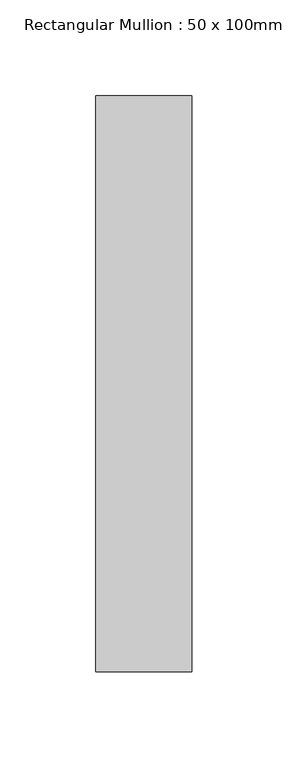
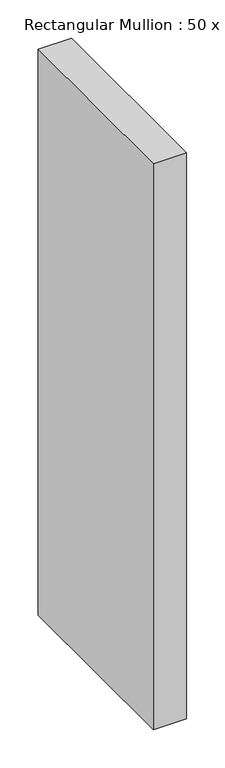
"""IFC4 building model written with IfcOpenShell, lengths in millimetres: member geometry, Rectangular Mullion : 50 x 100mm."""

import ifcopenshell
import ifcopenshell.guid

model = None  # the IFC model being written
_history = None  # IfcOwnerHistory: only IFC2X3 demands one
_inside = {}  # id of a spatial element -> (the spatial element, [elements in it])
_under = {}  # id of a project, library or spatial element -> (it, [spatial elements below it])
_declared = {}  # id of a project -> (the project, [libraries it declares])
_typed = {}  # id of a type object -> (the type object, [elements of that type])
_made_of = {}  # id of a material, layer set ... -> (it, [elements and type objects made of it])


def new_model(schema):
    """Start an empty IFC model of exactly this schema.

    Asked for "IFC4X3", IfcOpenShell would pick the latest addendum, in which some entities
    have other attributes; the version numbers below select the first issue.
    IFC2X3 requires an IfcOwnerHistory on every rooted entity: one is made here for all.
    """
    global model, _history
    if schema == "IFC4X3":
        model = ifcopenshell.file(schema_version=(4, 3, 0, 0))
    else:
        model = ifcopenshell.file(schema=schema)
    _inside.clear()
    _under.clear()
    _declared.clear()
    _typed.clear()
    _made_of.clear()
    _history = None
    if model.schema == "IFC2X3":
        org = make("IfcOrganization", Name="unknown")
        user = make(
            "IfcPersonAndOrganization",
            ThePerson=make("IfcPerson", FamilyName="unknown"),
            TheOrganization=org,
        )
        app = make(
            "IfcApplication",
            ApplicationDeveloper=org,
            Version="unknown",
            ApplicationFullName="unknown",
            ApplicationIdentifier="unknown",
        )
        _history = make(
            "IfcOwnerHistory",
            OwningUser=user,
            OwningApplication=app,
            ChangeAction="ADDED",
            CreationDate=0,
        )
    return model


def make(cls, **values):
    """One entity of the class cls with the attributes given. An attribute that is None is left unset."""
    return model.create_entity(
        cls, **{name: value for name, value in values.items() if value is not None}
    )


def rooted(cls, **values):
    """An entity with a GlobalId (a new one), such as an element, a storey or a relation."""
    return make(cls, GlobalId=ifcopenshell.guid.new(), OwnerHistory=_history, **values)


def si_unit(unit_type, name, prefix=None):
    """IfcSIUnit, for example si_unit("LENGTHUNIT", "METRE", prefix="MILLI")."""
    return make("IfcSIUnit", UnitType=unit_type, Prefix=prefix, Name=name)


def assignment(units):
    """IfcUnitAssignment: the units of a project."""
    return None if units is None else make("IfcUnitAssignment", Units=units)


def point(xyz):
    """IfcCartesianPoint."""
    return None if xyz is None else make("IfcCartesianPoint", Coordinates=xyz)


def direction(xyz):
    """IfcDirection."""
    return None if xyz is None else make("IfcDirection", DirectionRatios=xyz)


def frame(location, z_axis=None, x_axis=None):
    """IfcAxis2Placement3D, a coordinate frame: its origin and axes. An axis left out is left unset."""
    return make(
        "IfcAxis2Placement3D",
        Location=point(location),
        Axis=direction(z_axis),
        RefDirection=direction(x_axis),
    )


def origin():
    """The frame at (0, 0, 0) with its axes left unset."""
    return frame((0.0, 0.0, 0.0))


def place(relative_to, where):
    """IfcLocalPlacement: puts the frame where relative to a parent placement (None: the world)."""
    return make(
        "IfcLocalPlacement", PlacementRelTo=relative_to, RelativePlacement=where
    )


def context(
    kind, dimensions, precision=None, world=None, true_north=None, identifier=None
):
    """IfcGeometricRepresentationContext, for example the 3D "Model" context."""
    return make(
        "IfcGeometricRepresentationContext",
        ContextIdentifier=identifier,
        ContextType=kind,
        CoordinateSpaceDimension=dimensions,
        Precision=precision,
        WorldCoordinateSystem=world,
        TrueNorth=true_north,
    )


def project(units=None, contexts=None):
    """IfcProject with its units and contexts."""
    return rooted(
        "IfcProject",
        Name="project",
        RepresentationContexts=contexts,
        UnitsInContext=assignment(units),
    )


def spatial(cls, under=None, at=None, **own):
    """A site, building, storey or space (cls), placed at a placement, below another one or the project."""
    s = rooted(cls, ObjectPlacement=at, **own)
    if under is not None:
        _under.setdefault(under.id(), (under, []))[1].append(s)
    return s


def polyline(points):
    """IfcPolyline through the points."""
    return make("IfcPolyline", Points=[point(p) for p in points])


def outline(outer, holes=None, kind="AREA"):
    """IfcArbitraryClosedProfileDef: a profile drawn as a closed curve; with holes, ...WithVoids."""
    if holes is None:
        return make("IfcArbitraryClosedProfileDef", ProfileType=kind, OuterCurve=outer)
    return make(
        "IfcArbitraryProfileDefWithVoids",
        ProfileType=kind,
        OuterCurve=outer,
        InnerCurves=holes,
    )


def extrude(swept, where, along, depth):
    """IfcExtrudedAreaSolid: the profile swept, set in the frame where, extruded along a direction by depth."""
    return make(
        "IfcExtrudedAreaSolid",
        SweptArea=swept,
        Position=where,
        ExtrudedDirection=direction(along),
        Depth=depth,
    )


def shape(context_of_items, identifier, shape_type, items):
    """IfcShapeRepresentation: the items that make up one representation, for example the "Body"."""
    return make(
        "IfcShapeRepresentation",
        ContextOfItems=context_of_items,
        RepresentationIdentifier=identifier,
        RepresentationType=shape_type,
        Items=items,
    )


def source(mapping_origin, context_of_items, identifier, shape_type, items):
    """IfcRepresentationMap: a shape defined once, which mapped items show again and again."""
    return make(
        "IfcRepresentationMap",
        MappingOrigin=mapping_origin,
        MappedRepresentation=shape(context_of_items, identifier, shape_type, items),
    )


def transform(
    local_origin,
    x_axis=None,
    y_axis=None,
    z_axis=None,
    scale=None,
    scale2=None,
    scale3=None,
    uniform=True,
):
    """IfcCartesianTransformationOperator3D, or its non-uniform kind. x_axis, y_axis, z_axis: its Axis1, 2, 3."""
    if uniform:
        return make(
            "IfcCartesianTransformationOperator3D",
            Axis1=direction(x_axis),
            Axis2=direction(y_axis),
            LocalOrigin=point(local_origin),
            Scale=scale,
            Axis3=direction(z_axis),
        )
    return make(
        "IfcCartesianTransformationOperator3DnonUniform",
        Axis1=direction(x_axis),
        Axis2=direction(y_axis),
        LocalOrigin=point(local_origin),
        Scale=scale,
        Axis3=direction(z_axis),
        Scale2=scale2,
        Scale3=scale3,
    )


def mapped(mapping_source, mapping_target):
    """IfcMappedItem: shows the shape of a source again, moved by a transform."""
    return make(
        "IfcMappedItem", MappingSource=mapping_source, MappingTarget=mapping_target
    )


def made_of(thing, what):
    """Note that an element or type object is made of a material, layer set ...; save() writes the relation."""
    if what is not None:
        _made_of.setdefault(what.id(), (what, []))[1].append(thing)
    return thing


def element(
    cls,
    number,
    at=None,
    inside=None,
    cuts=None,
    type_object=None,
    material=None,
    context=None,
    identifier="Body",
    shape_type=None,
    held_by="IfcProductDefinitionShape",
    body=None,
    shapes=None,
    **own,
):
    """One element of the class cls, such as IfcWall. Its Tag is "e" and its number.

    at: its placement. inside: the storey or other place that contains it. cuts: it is an
    opening in that element (IfcRelVoidsElement). A single representation is given by context,
    identifier, shape_type and body (its items); several are given by shapes. held_by: the class
    of the entity that holds the representations. save() writes the other relations.
    """
    e = rooted(cls, Tag="e%d" % number, ObjectPlacement=at, **own)
    if body is not None:
        shapes = [shape(context, identifier, shape_type, body)]
    if shapes is not None:
        e.Representation = make(held_by, Representations=shapes)
    if inside is not None:
        _inside.setdefault(inside.id(), (inside, []))[1].append(e)
    if cuts is not None:
        rooted(
            "IfcRelVoidsElement", RelatingBuildingElement=cuts, RelatedOpeningElement=e
        )
    if type_object is not None:
        _typed.setdefault(type_object.id(), (type_object, []))[1].append(e)
    return made_of(e, material)


def aggregate(whole, parts):
    """IfcRelAggregates: a whole, such as a stair, and the parts it consists of."""
    return rooted("IfcRelAggregates", RelatingObject=whole, RelatedObjects=parts)


def save(model, path):
    """Write the relations noted so far, then the file.

    IfcRelAggregates (storeys below a building ...), IfcRelContainedInSpatialStructure (elements
    in a storey), IfcRelDefinesByType, IfcRelAssociatesMaterial and IfcRelDeclares: one each for
    every whole, place, type object, material and project.
    """
    for whole, parts in _under.values():
        aggregate(whole, parts)
    for where, things in _inside.values():
        rooted(
            "IfcRelContainedInSpatialStructure",
            RelatedElements=things,
            RelatingStructure=where,
        )
    for kind, things in _typed.values():
        rooted("IfcRelDefinesByType", RelatedObjects=things, RelatingType=kind)
    for what, things in _made_of.values():
        rooted("IfcRelAssociatesMaterial", RelatedObjects=things, RelatingMaterial=what)
    for by, libraries in _declared.values():
        rooted("IfcRelDeclares", RelatingContext=by, RelatedDefinitions=libraries)
    model.write(path)


def rectangular_mullion_50_x_100mm_ab75951c(model_context):
    return source(origin(), model_context, "Body", "SweptSolid", [
        extrude(outline(polyline([(0.0, 175.0), (0.0, -125.0), (-50.0, -125.0), (-50.0, 175.0), (0.0, 175.0)])), frame((0.0, 0.0, -900.0), z_axis=(0.0, 0.0, 1.0), x_axis=(1.0, 0.0, 0.0)), (0.0, 0.0, 1.0), 900.0),
    ])


if __name__ == "__main__":
    model = new_model("IFC4")
    model_context = context("Model", 3, world=origin())
    ifc_project = project(units=[si_unit("LENGTHUNIT", "METRE", prefix="MILLI")], contexts=[model_context])
    site = spatial("IfcSite", under=ifc_project)
    building = spatial("IfcBuilding", under=site)
    placement = place(None, origin())
    rectangular_mullion_50_x_100mm_shape = rectangular_mullion_50_x_100mm_ab75951c(model_context)
    element("IfcMember", 1, ObjectType="Rectangular Mullion : 50 x 100mm", at=placement, inside=building, context=model_context, shape_type="MappedRepresentation", body=[
        mapped(rectangular_mullion_50_x_100mm_shape, transform((0.0, 0.0, 0.0), x_axis=(1.0, 0.0, 0.0), y_axis=(0.0, 1.0, 0.0), z_axis=(0.0, 0.0, 1.0))),
    ])
    save(model, "model.ifc")
